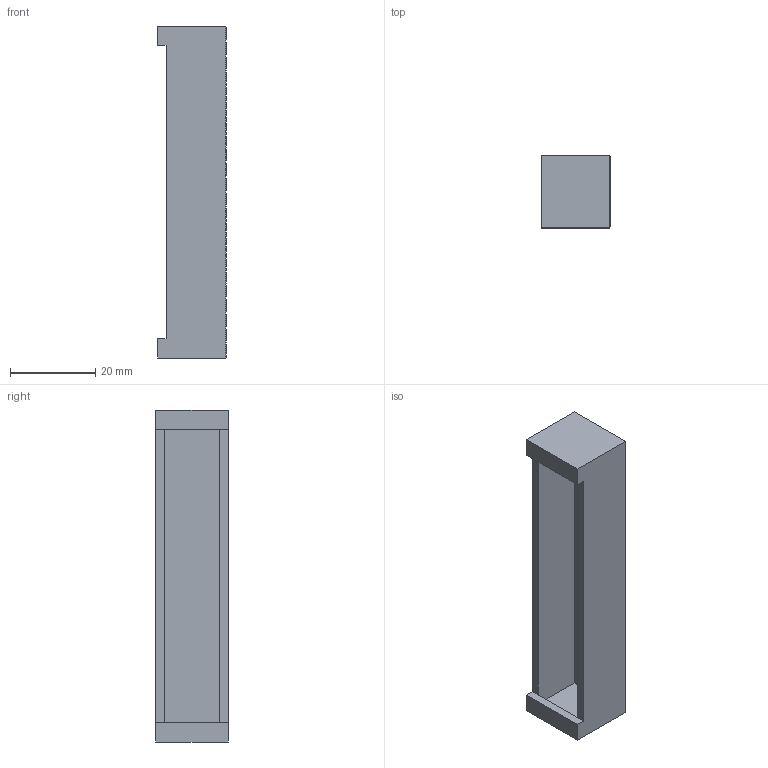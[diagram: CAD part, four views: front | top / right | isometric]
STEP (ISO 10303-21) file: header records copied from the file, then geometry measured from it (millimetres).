
FILE_DESCRIPTION(/* description */ (''),/* implementation_level */ '2;1');
FILE_NAME(/* name */ 'H:\5-Olympiades\47e\Sujet Régional\Etau\A donner aux candidats\2-Après-Midi\04-Tampon mors.stp',/* time_stamp */ '2022-03-30T08:34:37+02:00',/* author */ ('Philippe'),/* organization */ (''),/* preprocessor_version */ 'ST-DEVELOPER v18',/* originating_system */ 'Autodesk Inventor 2020',/* authorisation */ '');
FILE_SCHEMA (('AUTOMOTIVE_DESIGN { 1 0 10303 214 3 1 1 }'));
Length unit declared in the file: millimetre
Products named in the file (1): 04-Tampon mors
Bounding box: 16.2 x 17 x 78 mm (x, y, z)
Volume: 7415.1 mm3; surface area: 7967.6 mm2
Topology: 1 solids, 1 shells, 1008 faces, 2420 edges, 1612 vertices
Faces by surface type: plane 1008
Entity records: 28673 total; most frequent: CARTESIAN_POINT 5041, ORIENTED_EDGE 4840, DIRECTION 4438, LINE 2420, VECTOR 2420, EDGE_CURVE 2420, VERTEX_POINT 1612, EDGE_LOOP 1206
